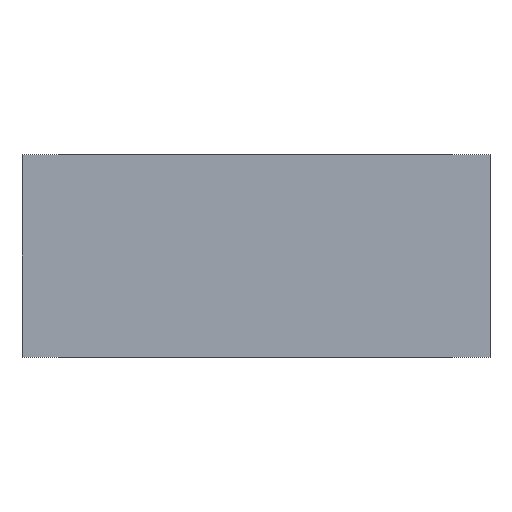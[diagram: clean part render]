
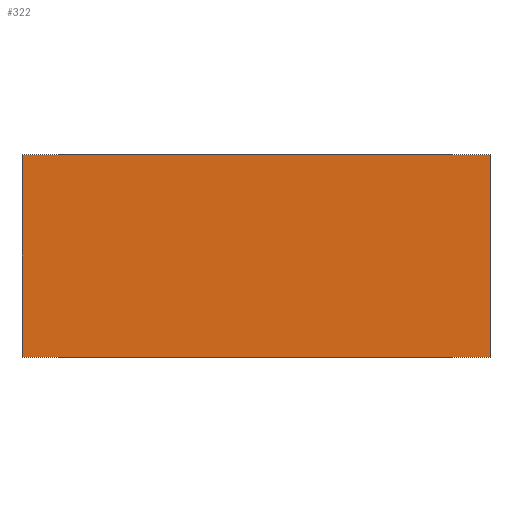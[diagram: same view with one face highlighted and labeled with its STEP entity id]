
A CAD part, front view. The second image highlights one B-rep face of the part: STEP entity #322.
In plain terms, the highlighted planar face has unit normal (0, -1, 0).
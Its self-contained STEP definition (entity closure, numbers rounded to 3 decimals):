
#14 = EDGE_CURVE ( 'NONE', #517, #570, #217, .T. ) ;
#15 = EDGE_CURVE ( 'NONE', #538, #517, #211, .T. ) ;
#38 = AXIS2_PLACEMENT_3D ( 'NONE', #477, #467, #466 ) ;
#47 = EDGE_CURVE ( 'NONE', #573, #570, #189, .T. ) ;
#59 = EDGE_CURVE ( 'NONE', #538, #573, #148, .T. ) ;
#127 = FACE_OUTER_BOUND ( 'NONE', #234, .T. ) ;
#147 = VECTOR ( 'NONE', #496, 1000. ) ;
#148 = LINE ( 'NONE', #497, #147 ) ;
#168 = VECTOR ( 'NONE', #527, 1000. ) ;
#189 = LINE ( 'NONE', #541, #168 ) ;
#206 = VECTOR ( 'NONE', #355, 1000. ) ;
#208 = VECTOR ( 'NONE', #404, 1000. ) ;
#211 = LINE ( 'NONE', #408, #206 ) ;
#217 = LINE ( 'NONE', #422, #208 ) ;
#234 = EDGE_LOOP ( 'NONE', ( #298, #299, #300, #301 ) ) ;
#298 = ORIENTED_EDGE ( 'NONE', *, *, #14, .T. ) ;
#299 = ORIENTED_EDGE ( 'NONE', *, *, #47, .F. ) ;
#300 = ORIENTED_EDGE ( 'NONE', *, *, #59, .F. ) ;
#301 = ORIENTED_EDGE ( 'NONE', *, *, #15, .T. ) ;
#322 = ADVANCED_FACE ( 'NONE', ( #127 ), #474, .F. ) ;
#355 = DIRECTION ( 'NONE',  ( 0., 0., -1. ) ) ;
#375 = CARTESIAN_POINT ( 'NONE',  ( 75., 0., 65. ) ) ;
#376 = CARTESIAN_POINT ( 'NONE',  ( 75., 0., 0. ) ) ;
#387 = CARTESIAN_POINT ( 'NONE',  ( -75., 0., 65. ) ) ;
#392 = CARTESIAN_POINT ( 'NONE',  ( -75., 0., 0. ) ) ;
#404 = DIRECTION ( 'NONE',  ( 1., 0., 0. ) ) ;
#408 = CARTESIAN_POINT ( 'NONE',  ( -75., 0., 65. ) ) ;
#422 = CARTESIAN_POINT ( 'NONE',  ( -75., 0., 0. ) ) ;
#466 = DIRECTION ( 'NONE',  ( -1., 0., 0. ) ) ;
#467 = DIRECTION ( 'NONE',  ( 0., 1., 0. ) ) ;
#474 = PLANE ( 'NONE',  #38 ) ;
#477 = CARTESIAN_POINT ( 'NONE',  ( -75., 0., 65. ) ) ;
#496 = DIRECTION ( 'NONE',  ( 1., 0., 0. ) ) ;
#497 = CARTESIAN_POINT ( 'NONE',  ( -75., 0., 65. ) ) ;
#517 = VERTEX_POINT ( 'NONE', #392 ) ;
#527 = DIRECTION ( 'NONE',  ( 0., 0., -1. ) ) ;
#538 = VERTEX_POINT ( 'NONE', #387 ) ;
#541 = CARTESIAN_POINT ( 'NONE',  ( 75., 0., 65. ) ) ;
#570 = VERTEX_POINT ( 'NONE', #376 ) ;
#573 = VERTEX_POINT ( 'NONE', #375 ) ;
